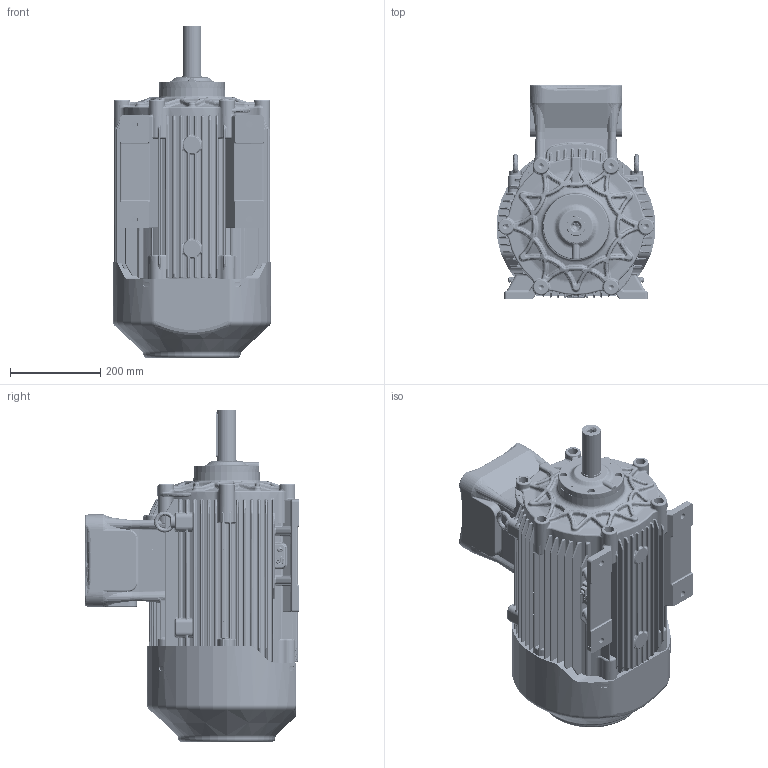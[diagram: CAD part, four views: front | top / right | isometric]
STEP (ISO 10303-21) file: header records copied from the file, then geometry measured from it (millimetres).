
FILE_DESCRIPTION (( 'STEP AP214' ), '1' );
FILE_NAME ('6RD160MB4E3 IM1001.STEP', '2021-08-05T14:45:42', ( '' ), ( '' ), 'SwSTEP 2.0', 'SolidWorks 2018', '' );
FILE_SCHEMA (( 'AUTOMOTIVE_DESIGN' ));
Length unit declared in the file: millimetre
Products named in the file (1): 6RD160MB4E3 IM1001
Bounding box: 352 x 473.5 x 735 mm (x, y, z)
Volume: 52321219.3 mm3; surface area: 1568099 mm2
Topology: 9 solids, 26 shells, 4953 faces, 11894 edges, 6806 vertices
Faces by surface type: cylinder 1754, bspline 1250, plane 785, torus 637, sphere 283, cone 244
Entity records: 248000 total; most frequent: CARTESIAN_POINT 142753, ORIENTED_EDGE 23058, DIRECTION 21284, EDGE_CURVE 11529, AXIS2_PLACEMENT_3D 9092, VERTEX_POINT 6803, CIRCLE 5388, EDGE_LOOP 5160
